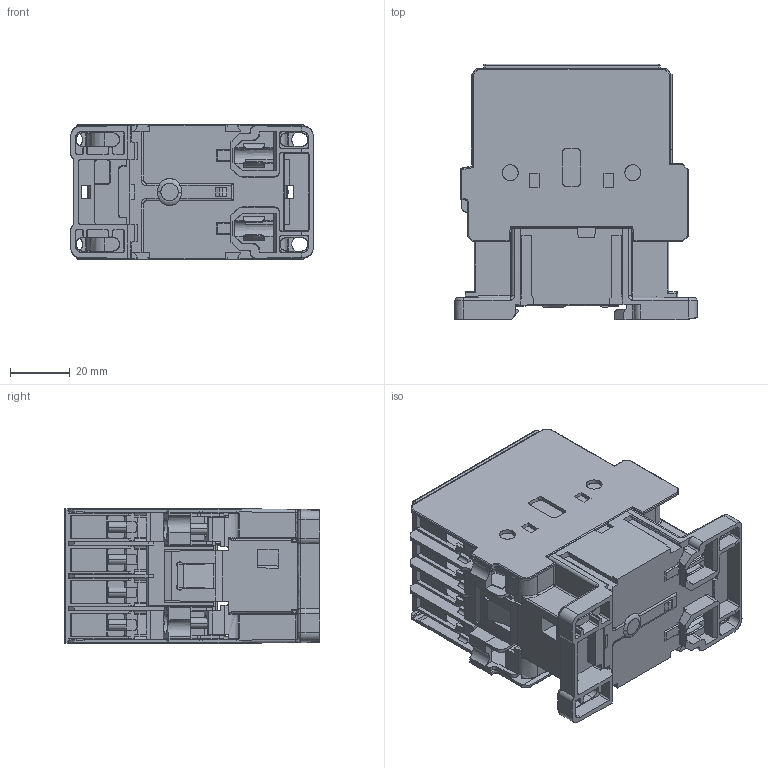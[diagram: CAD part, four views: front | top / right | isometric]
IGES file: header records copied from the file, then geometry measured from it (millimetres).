
Start section: SolidWorks IGES file using analytic representation for surfaces
Global section: file name: \\Brjgs100\dfsweg\GROUPS\BR_SC_JGS_WA_TECNICO\ENG\Usuarios\Rodrigob\conversão\contatores\Produto\CWL9...25\CWL9...25.IGS; native system: SolidWorks 2016; preprocessor: SolidWorks 2016; author: rodrigob; date: 180614.052351; units: millimetre
Bounding box: 81 x 85.4 x 45 mm (x, y, z)
Surface area: 78818.7 mm2 (no closed solid volume)
Topology: 0 solids, 0 shells, 3237 faces, 26752 edges, 26747 vertices
Faces by surface type: bspline 2453, revolution 784
